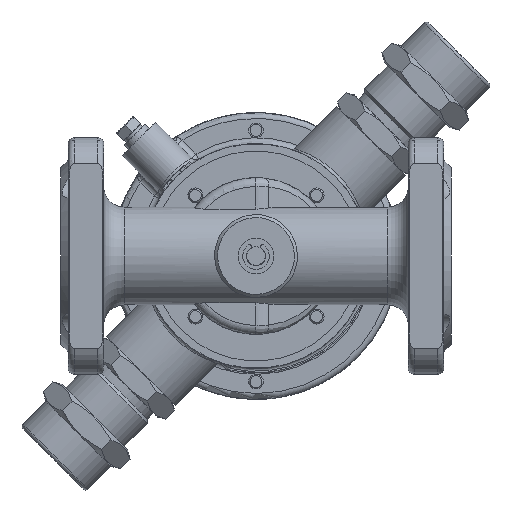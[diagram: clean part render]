
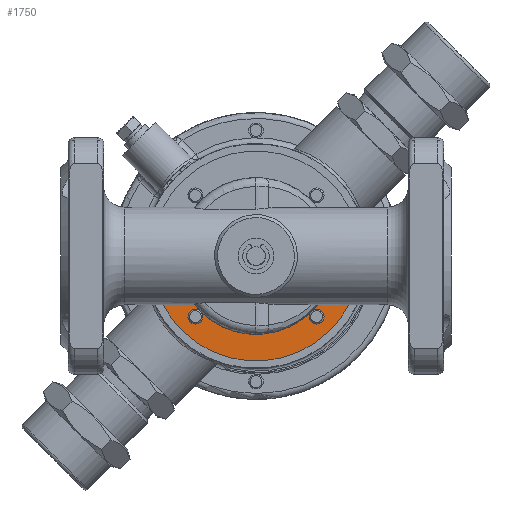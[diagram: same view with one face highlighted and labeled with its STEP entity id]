
A CAD part, front view. The second image highlights one B-rep face of the part: STEP entity #1750.
In plain terms, the highlighted planar face has unit normal (0, -1, 0).
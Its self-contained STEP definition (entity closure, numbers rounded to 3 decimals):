
#1750=ADVANCED_FACE('',(#19204),#19206,.F.);
#19204=FACE_OUTER_BOUND('',#19205,.T.);
#19205=EDGE_LOOP('',(#31441,#31442,#31443,#31444,#31445,#31446,#31447,#31448,#31449,
#31450,#31451,#31452));
#19206=PLANE('',#19207);
#19207=AXIS2_PLACEMENT_3D('',#19208,#19209,#19210);
#19208=CARTESIAN_POINT('',(0.,16.,0.));
#19209=DIRECTION('',(0.,1.,-0.));
#19210=DIRECTION('',(1.,0.,0.));
#31441=ORIENTED_EDGE('',*,*,#40891,.T.);
#31442=ORIENTED_EDGE('',*,*,#40892,.T.);
#31443=ORIENTED_EDGE('',*,*,#40893,.T.);
#31444=ORIENTED_EDGE('',*,*,#40894,.T.);
#31445=ORIENTED_EDGE('',*,*,#40895,.T.);
#31446=ORIENTED_EDGE('',*,*,#40881,.T.);
#31447=ORIENTED_EDGE('',*,*,#40773,.F.);
#31448=ORIENTED_EDGE('',*,*,#40771,.F.);
#31449=ORIENTED_EDGE('',*,*,#40769,.F.);
#31450=ORIENTED_EDGE('',*,*,#40890,.T.);
#31451=ORIENTED_EDGE('',*,*,#40896,.T.);
#31452=ORIENTED_EDGE('',*,*,#40897,.T.);
#40769=EDGE_CURVE('',#48718,#48720,#48721,.T.);
#40771=EDGE_CURVE('',#48720,#48723,#48724,.T.);
#40773=EDGE_CURVE('',#48723,#48726,#48727,.T.);
#40881=EDGE_CURVE('',#48898,#48726,#48899,.F.);
#40890=EDGE_CURVE('',#48718,#48914,#48916,.F.);
#40891=EDGE_CURVE('',#48917,#48918,#48919,.T.);
#40892=EDGE_CURVE('',#48918,#48920,#48921,.F.);
#40893=EDGE_CURVE('',#48920,#48922,#48923,.T.);
#40894=EDGE_CURVE('',#48922,#48920,#48924,.T.);
#40895=EDGE_CURVE('',#48920,#48898,#48925,.F.);
#40896=EDGE_CURVE('',#48914,#48918,#48926,.F.);
#40897=EDGE_CURVE('',#48918,#48917,#48927,.T.);
#48718=VERTEX_POINT('',#76483);
#48720=VERTEX_POINT('',#76488);
#48721=LINE('',#76489,#76490);
#48723=VERTEX_POINT('',#76495);
#48724=CIRCLE('',#76496,35.5);
#48726=VERTEX_POINT('',#76503);
#48727=LINE('',#76504,#76505);
#48898=VERTEX_POINT('',#77123);
#48899=LINE('',#77124,#77125);
#48914=VERTEX_POINT('',#77316);
#48916=LINE('',#77325,#77326);
#48917=VERTEX_POINT('',#77328);
#48918=VERTEX_POINT('',#77329);
#48919=CIRCLE('',#77330,2.5);
#48920=VERTEX_POINT('',#77334);
#48921=CIRCLE('',#77335,26.5);
#48922=VERTEX_POINT('',#77339);
#48923=CIRCLE('',#77340,2.5);
#48924=CIRCLE('',#77344,2.5);
#48925=CIRCLE('',#77348,26.5);
#48926=CIRCLE('',#77352,26.5);
#48927=CIRCLE('',#77356,2.5);
#76483=CARTESIAN_POINT('',(31.5,16.,-4.031));
#76488=CARTESIAN_POINT('',(31.5,16.,-16.371));
#76489=CARTESIAN_POINT('',(31.5,16.,-4.031));
#76490=VECTOR('',#76491,1.);
#76491=DIRECTION('',(0.,0.,-1.));
#76495=CARTESIAN_POINT('',(-31.5,16.,-16.371));
#76496=AXIS2_PLACEMENT_3D('',#76497,#76498,#76499);
#76497=CARTESIAN_POINT('',(0.,16.,0.));
#76498=DIRECTION('',(-0.,1.,0.));
#76499=DIRECTION('',(0.887,0.,-0.461));
#76503=CARTESIAN_POINT('',(-31.5,16.,-4.031));
#76504=CARTESIAN_POINT('',(-31.5,16.,-16.371));
#76505=VECTOR('',#76506,1.);
#76506=DIRECTION('',(0.,0.,1.));
#77123=CARTESIAN_POINT('',(-26.192,16.,-4.031));
#77124=CARTESIAN_POINT('',(-31.5,16.,-4.031));
#77125=VECTOR('',#77126,1.);
#77126=DIRECTION('',(1.,0.,0.));
#77316=CARTESIAN_POINT('',(26.192,16.,-4.031));
#77325=CARTESIAN_POINT('',(26.192,16.,-4.031));
#77326=VECTOR('',#77327,1.);
#77327=DIRECTION('',(1.,0.,0.));
#77328=CARTESIAN_POINT('',(23.006,16.,-20.506));
#77329=CARTESIAN_POINT('',(18.738,16.,-18.738));
#77330=AXIS2_PLACEMENT_3D('',#77331,#77332,#77333);
#77331=CARTESIAN_POINT('',(20.506,16.,-20.506));
#77332=DIRECTION('',(-0.,1.,0.));
#77333=DIRECTION('',(1.,0.,0.));
#77334=CARTESIAN_POINT('',(-18.738,16.,-18.738));
#77335=AXIS2_PLACEMENT_3D('',#77336,#77337,#77338);
#77336=CARTESIAN_POINT('',(0.,16.,0.));
#77337=DIRECTION('',(0.,-1.,0.));
#77338=DIRECTION('',(-0.707,0.,-0.707));
#77339=CARTESIAN_POINT('',(-18.006,16.,-20.506));
#77340=AXIS2_PLACEMENT_3D('',#77341,#77342,#77343);
#77341=CARTESIAN_POINT('',(-20.506,16.,-20.506));
#77342=DIRECTION('',(-0.,1.,0.));
#77343=DIRECTION('',(0.707,0.,0.707));
#77344=AXIS2_PLACEMENT_3D('',#77345,#77346,#77347);
#77345=CARTESIAN_POINT('',(-20.506,16.,-20.506));
#77346=DIRECTION('',(-0.,1.,0.));
#77347=DIRECTION('',(1.,0.,0.));
#77348=AXIS2_PLACEMENT_3D('',#77349,#77350,#77351);
#77349=CARTESIAN_POINT('',(0.,16.,0.));
#77350=DIRECTION('',(0.,-1.,0.));
#77351=DIRECTION('',(-0.988,0.,-0.152));
#77352=AXIS2_PLACEMENT_3D('',#77353,#77354,#77355);
#77353=CARTESIAN_POINT('',(0.,16.,0.));
#77354=DIRECTION('',(0.,-1.,0.));
#77355=DIRECTION('',(0.707,0.,-0.707));
#77356=AXIS2_PLACEMENT_3D('',#77357,#77358,#77359);
#77357=CARTESIAN_POINT('',(20.506,16.,-20.506));
#77358=DIRECTION('',(-0.,1.,0.));
#77359=DIRECTION('',(-0.707,0.,0.707));
